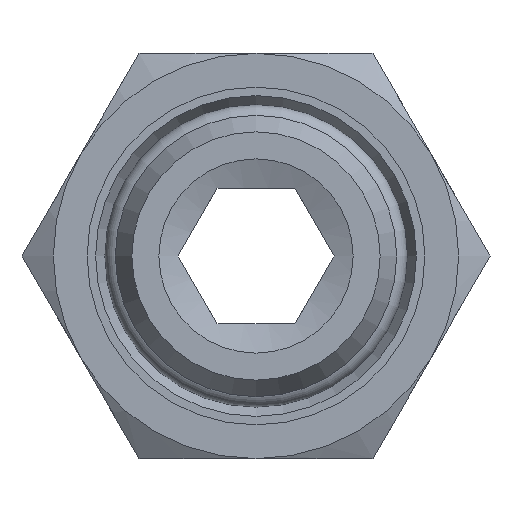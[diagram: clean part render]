
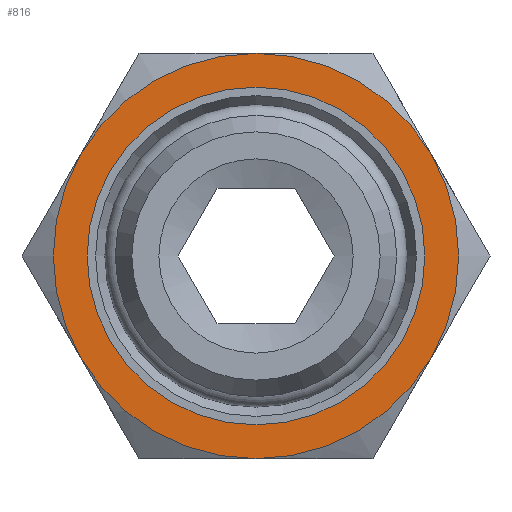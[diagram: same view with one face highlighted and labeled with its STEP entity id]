
A CAD part, front view. The second image highlights one B-rep face of the part: STEP entity #816.
In plain terms, the highlighted planar face has unit normal (0, -1, 0).
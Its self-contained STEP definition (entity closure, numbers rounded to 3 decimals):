
#136=FACE_BOUND('',#250,.T.);
#157=PLANE('',#922);
#198=FACE_OUTER_BOUND('',#249,.T.);
#249=EDGE_LOOP('',(#687,#688,#689,#690,#691,#692));
#250=EDGE_LOOP('',(#693,#694));
#298=CIRCLE('',#885,12.);
#299=CIRCLE('',#887,12.);
#300=CIRCLE('',#889,12.);
#301=CIRCLE('',#891,12.);
#302=CIRCLE('',#893,12.);
#303=CIRCLE('',#895,12.);
#310=CIRCLE('',#923,10.);
#311=CIRCLE('',#924,10.);
#361=VERTEX_POINT('',#1298);
#362=VERTEX_POINT('',#1302);
#364=VERTEX_POINT('',#1309);
#366=VERTEX_POINT('',#1322);
#368=VERTEX_POINT('',#1332);
#370=VERTEX_POINT('',#1342);
#390=VERTEX_POINT('',#1457);
#391=VERTEX_POINT('',#1458);
#449=EDGE_CURVE('',#361,#362,#298,.T.);
#452=EDGE_CURVE('',#364,#361,#299,.T.);
#454=EDGE_CURVE('',#366,#364,#300,.T.);
#457=EDGE_CURVE('',#368,#366,#301,.T.);
#460=EDGE_CURVE('',#370,#368,#302,.T.);
#463=EDGE_CURVE('',#362,#370,#303,.T.);
#503=EDGE_CURVE('',#390,#391,#310,.T.);
#504=EDGE_CURVE('',#391,#390,#311,.T.);
#687=ORIENTED_EDGE('',*,*,#463,.T.);
#688=ORIENTED_EDGE('',*,*,#460,.T.);
#689=ORIENTED_EDGE('',*,*,#457,.T.);
#690=ORIENTED_EDGE('',*,*,#454,.T.);
#691=ORIENTED_EDGE('',*,*,#452,.T.);
#692=ORIENTED_EDGE('',*,*,#449,.T.);
#693=ORIENTED_EDGE('',*,*,#503,.F.);
#694=ORIENTED_EDGE('',*,*,#504,.F.);
#816=ADVANCED_FACE('',(#198,#136),#157,.T.);
#885=AXIS2_PLACEMENT_3D('',#1306,#1032,#1033);
#887=AXIS2_PLACEMENT_3D('',#1316,#1036,#1037);
#889=AXIS2_PLACEMENT_3D('',#1323,#1040,#1041);
#891=AXIS2_PLACEMENT_3D('',#1333,#1044,#1045);
#893=AXIS2_PLACEMENT_3D('',#1343,#1048,#1049);
#895=AXIS2_PLACEMENT_3D('',#1352,#1052,#1053);
#922=AXIS2_PLACEMENT_3D('',#1456,#1126,#1127);
#923=AXIS2_PLACEMENT_3D('',#1459,#1128,#1129);
#924=AXIS2_PLACEMENT_3D('',#1460,#1130,#1131);
#1032=DIRECTION('center_axis',(0.,-1.,0.));
#1033=DIRECTION('ref_axis',(-1.,0.,0.));
#1036=DIRECTION('center_axis',(0.,-1.,0.));
#1037=DIRECTION('ref_axis',(-1.,0.,0.));
#1040=DIRECTION('center_axis',(0.,-1.,0.));
#1041=DIRECTION('ref_axis',(-1.,0.,0.));
#1044=DIRECTION('center_axis',(0.,-1.,0.));
#1045=DIRECTION('ref_axis',(-1.,0.,0.));
#1048=DIRECTION('center_axis',(0.,-1.,0.));
#1049=DIRECTION('ref_axis',(-1.,0.,0.));
#1052=DIRECTION('center_axis',(0.,-1.,0.));
#1053=DIRECTION('ref_axis',(-1.,0.,0.));
#1126=DIRECTION('center_axis',(0.,-1.,0.));
#1127=DIRECTION('ref_axis',(0.,0.,-1.));
#1128=DIRECTION('center_axis',(0.,-1.,0.));
#1129=DIRECTION('ref_axis',(1.,0.,0.));
#1130=DIRECTION('center_axis',(0.,-1.,0.));
#1131=DIRECTION('ref_axis',(1.,0.,0.));
#1298=CARTESIAN_POINT('',(0.,13.,-12.));
#1302=CARTESIAN_POINT('',(10.392,13.,-6.));
#1306=CARTESIAN_POINT('Origin',(0.,13.,0.));
#1309=CARTESIAN_POINT('',(-10.392,13.,-6.));
#1316=CARTESIAN_POINT('Origin',(0.,13.,0.));
#1322=CARTESIAN_POINT('',(-10.392,13.,6.));
#1323=CARTESIAN_POINT('Origin',(0.,13.,0.));
#1332=CARTESIAN_POINT('',(0.,13.,12.));
#1333=CARTESIAN_POINT('Origin',(0.,13.,0.));
#1342=CARTESIAN_POINT('',(10.392,13.,6.));
#1343=CARTESIAN_POINT('Origin',(0.,13.,0.));
#1352=CARTESIAN_POINT('Origin',(0.,13.,0.));
#1456=CARTESIAN_POINT('Origin',(10.,13.,0.));
#1457=CARTESIAN_POINT('',(10.,13.,0.));
#1458=CARTESIAN_POINT('',(-10.,13.,0.));
#1459=CARTESIAN_POINT('Origin',(0.,13.,0.));
#1460=CARTESIAN_POINT('Origin',(0.,13.,0.));
